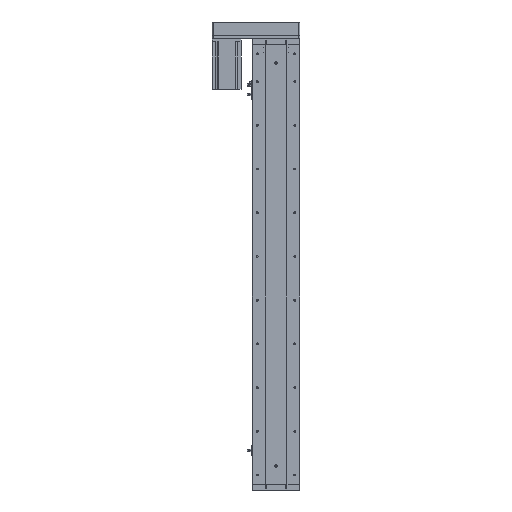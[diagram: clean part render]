
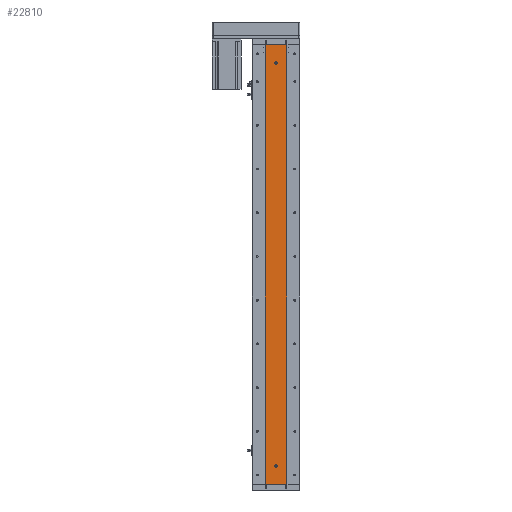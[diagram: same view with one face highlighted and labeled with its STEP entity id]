
A CAD part, left-side view. The second image highlights one B-rep face of the part: STEP entity #22810.
In plain terms, the highlighted planar face has unit normal (-1, 0, 0).
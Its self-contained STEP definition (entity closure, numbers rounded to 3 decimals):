
#994 = EDGE_LOOP ( 'NONE', ( #30204, #40253 ) ) ;
#1257 = DIRECTION ( 'NONE',  ( 0., 0., 1. ) ) ;
#1649 = DIRECTION ( 'NONE',  ( -1., 0., 0. ) ) ;
#1965 = DIRECTION ( 'NONE',  ( -1., 0., 0. ) ) ;
#2458 = CARTESIAN_POINT ( 'NONE',  ( -24.994, -29.785, 1206. ) ) ;
#3063 = LINE ( 'NONE', #2458, #10646 ) ;
#3886 = LINE ( 'NONE', #33611, #20024 ) ;
#3951 = CARTESIAN_POINT ( 'NONE',  ( -24.994, -29.785, 1206. ) ) ;
#4476 = CARTESIAN_POINT ( 'NONE',  ( -24.994, 0., 1153. ) ) ;
#4906 = ORIENTED_EDGE ( 'NONE', *, *, #37082, .F. ) ;
#6526 = ORIENTED_EDGE ( 'NONE', *, *, #19562, .T. ) ;
#6881 = EDGE_CURVE ( 'NONE', #24498, #27336, #3886, .T. ) ;
#8674 = EDGE_CURVE ( 'NONE', #39447, #9978, #28092, .T. ) ;
#9978 = VERTEX_POINT ( 'NONE', #11428 ) ;
#10399 = VERTEX_POINT ( 'NONE', #4476 ) ;
#10646 = VECTOR ( 'NONE', #12087, 1000. ) ;
#10952 = DIRECTION ( 'NONE',  ( -1., 0., 0. ) ) ;
#11428 = CARTESIAN_POINT ( 'NONE',  ( -24.994, 0., 53. ) ) ;
#12087 = DIRECTION ( 'NONE',  ( 0., 0., -1. ) ) ;
#12095 = ORIENTED_EDGE ( 'NONE', *, *, #26690, .F. ) ;
#12220 = EDGE_CURVE ( 'NONE', #9978, #39447, #28404, .T. ) ;
#12501 = AXIS2_PLACEMENT_3D ( 'NONE', #20984, #1649, #24268 ) ;
#12610 = CARTESIAN_POINT ( 'NONE',  ( -24.994, 29.785, 0. ) ) ;
#13823 = FACE_OUTER_BOUND ( 'NONE', #21087, .T. ) ;
#15280 = LINE ( 'NONE', #18464, #23902 ) ;
#15695 = VERTEX_POINT ( 'NONE', #3951 ) ;
#15900 = EDGE_CURVE ( 'NONE', #36961, #10399, #26483, .T. ) ;
#16913 = VERTEX_POINT ( 'NONE', #24222 ) ;
#17461 = AXIS2_PLACEMENT_3D ( 'NONE', #40146, #20565, #1257 ) ;
#18389 = DIRECTION ( 'NONE',  ( 1., 0., 0. ) ) ;
#18464 = CARTESIAN_POINT ( 'NONE',  ( -24.994, 29.785, 1206. ) ) ;
#19562 = EDGE_CURVE ( 'NONE', #27336, #16913, #40507, .T. ) ;
#20024 = VECTOR ( 'NONE', #30332, 1000. ) ;
#20088 = CIRCLE ( 'NONE', #12501, 3. ) ;
#20329 = DIRECTION ( 'NONE',  ( 0., -1., 0. ) ) ;
#20565 = DIRECTION ( 'NONE',  ( -1., 0., 0. ) ) ;
#20984 = CARTESIAN_POINT ( 'NONE',  ( -24.994, 0., 1156. ) ) ;
#21087 = EDGE_LOOP ( 'NONE', ( #6526, #12095, #39576, #24024 ) ) ;
#21291 = CARTESIAN_POINT ( 'NONE',  ( -24.994, 0., 1156. ) ) ;
#21371 = PLANE ( 'NONE',  #40210 ) ;
#22381 = FACE_BOUND ( 'NONE', #29478, .T. ) ;
#22810 = ADVANCED_FACE ( 'NONE', ( #22381, #31184, #13823 ), #21371, .F. ) ;
#23902 = VECTOR ( 'NONE', #38063, 1000. ) ;
#24024 = ORIENTED_EDGE ( 'NONE', *, *, #6881, .T. ) ;
#24222 = CARTESIAN_POINT ( 'NONE',  ( -24.994, -29.785, 0. ) ) ;
#24268 = DIRECTION ( 'NONE',  ( 0., 0., 1. ) ) ;
#24498 = VERTEX_POINT ( 'NONE', #36972 ) ;
#24599 = DIRECTION ( 'NONE',  ( 0., 0., 1. ) ) ;
#26483 = CIRCLE ( 'NONE', #33232, 3. ) ;
#26690 = EDGE_CURVE ( 'NONE', #15695, #16913, #3063, .T. ) ;
#27336 = VERTEX_POINT ( 'NONE', #12610 ) ;
#28092 = CIRCLE ( 'NONE', #41166, 3. ) ;
#28404 = CIRCLE ( 'NONE', #17461, 3. ) ;
#29478 = EDGE_LOOP ( 'NONE', ( #35974, #4906 ) ) ;
#30204 = ORIENTED_EDGE ( 'NONE', *, *, #12220, .F. ) ;
#30332 = DIRECTION ( 'NONE',  ( 0., 0., -1. ) ) ;
#30345 = CARTESIAN_POINT ( 'NONE',  ( -24.994, 0., 47. ) ) ;
#30489 = CARTESIAN_POINT ( 'NONE',  ( -24.994, 0., 50. ) ) ;
#31184 = FACE_BOUND ( 'NONE', #994, .T. ) ;
#32981 = EDGE_CURVE ( 'NONE', #24498, #15695, #15280, .T. ) ;
#33232 = AXIS2_PLACEMENT_3D ( 'NONE', #21291, #1965, #24599 ) ;
#33611 = CARTESIAN_POINT ( 'NONE',  ( -24.994, 29.785, 1206. ) ) ;
#33759 = DIRECTION ( 'NONE',  ( 0., 0., 1. ) ) ;
#35974 = ORIENTED_EDGE ( 'NONE', *, *, #15900, .F. ) ;
#36735 = CARTESIAN_POINT ( 'NONE',  ( -24.994, 0., 1159. ) ) ;
#36961 = VERTEX_POINT ( 'NONE', #36735 ) ;
#36972 = CARTESIAN_POINT ( 'NONE',  ( -24.994, 29.785, 1206. ) ) ;
#37082 = EDGE_CURVE ( 'NONE', #10399, #36961, #20088, .T. ) ;
#37983 = CARTESIAN_POINT ( 'NONE',  ( -24.994, 29.785, 1206. ) ) ;
#38063 = DIRECTION ( 'NONE',  ( 0., -1., 0. ) ) ;
#39447 = VERTEX_POINT ( 'NONE', #30345 ) ;
#39499 = VECTOR ( 'NONE', #20329, 1000. ) ;
#39576 = ORIENTED_EDGE ( 'NONE', *, *, #32981, .F. ) ;
#39915 = CARTESIAN_POINT ( 'NONE',  ( -24.994, 29.785, 0. ) ) ;
#40146 = CARTESIAN_POINT ( 'NONE',  ( -24.994, 0., 50. ) ) ;
#40210 = AXIS2_PLACEMENT_3D ( 'NONE', #37983, #18389, #41239 ) ;
#40253 = ORIENTED_EDGE ( 'NONE', *, *, #8674, .F. ) ;
#40507 = LINE ( 'NONE', #39915, #39499 ) ;
#41166 = AXIS2_PLACEMENT_3D ( 'NONE', #30489, #10952, #33759 ) ;
#41239 = DIRECTION ( 'NONE',  ( 0., 0., -1. ) ) ;
